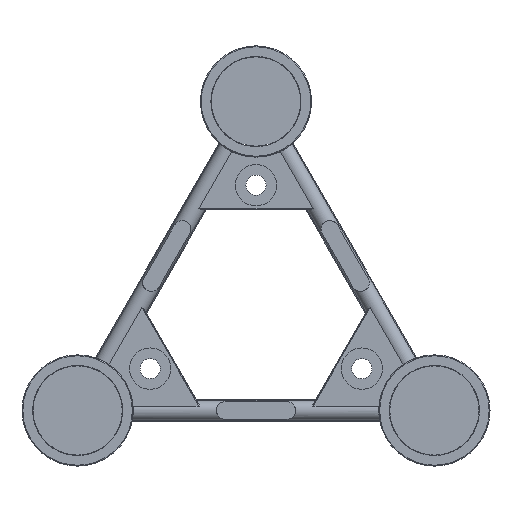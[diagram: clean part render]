
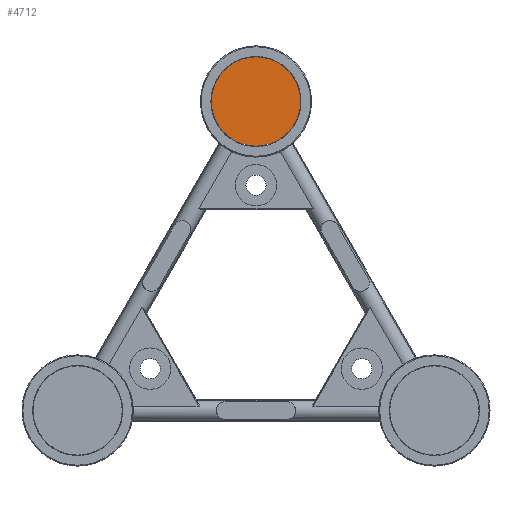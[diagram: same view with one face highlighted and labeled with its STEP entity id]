
A CAD part, left-side view. The second image highlights one B-rep face of the part: STEP entity #4712.
In plain terms, the highlighted planar face has unit normal (-1, 0, 0).
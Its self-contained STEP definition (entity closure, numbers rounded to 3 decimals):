
#41=CIRCLE('',#5075,25.4);
#665=FACE_OUTER_BOUND('',#997,.T.);
#997=EDGE_LOOP('',(#3139));
#1975=VERTEX_POINT('',#7143);
#2425=EDGE_CURVE('',#1975,#1975,#41,.T.);
#3139=ORIENTED_EDGE('',*,*,#2425,.F.);
#4229=PLANE('',#5078);
#4712=ADVANCED_FACE('',(#665),#4229,.T.);
#5075=AXIS2_PLACEMENT_3D('',#7144,#5769,#5770);
#5078=AXIS2_PLACEMENT_3D('',#7147,#5775,#5776);
#5769=DIRECTION('center_axis',(1.,0.,0.));
#5770=DIRECTION('ref_axis',(0.,-1.,0.));
#5775=DIRECTION('center_axis',(-1.,0.,0.));
#5776=DIRECTION('ref_axis',(0.,-1.,0.));
#7143=CARTESIAN_POINT('',(0.,126.9,175.803));
#7144=CARTESIAN_POINT('Origin',(0.,101.5,175.803));
#7147=CARTESIAN_POINT('Origin',(0.,101.5,175.803));
